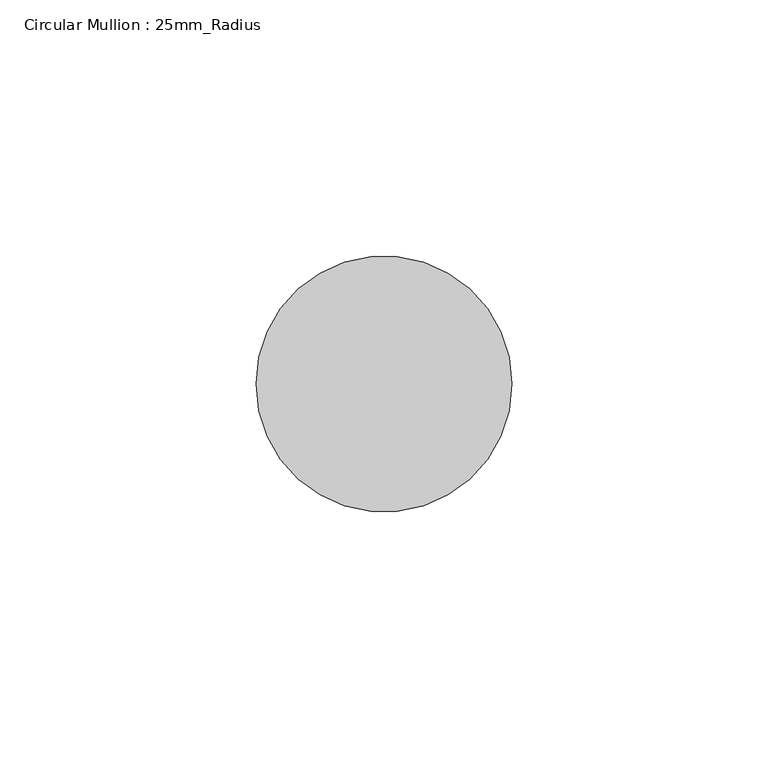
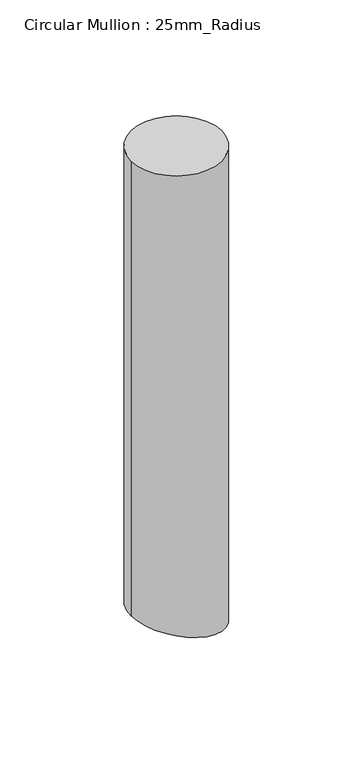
"""IFC4 building model written with IfcOpenShell, lengths in millimetres: member geometry, Circular Mullion : 25mm_Radius."""

from ifc_helpers import new_model, si_unit, frame, origin, place, context, project, spatial, circle_curve, ellipse_curve, source, transform, mapped, element, save
from ifc_brep_helpers import plane_surface, cylinder_surface, advanced_brep


def circular_mullion_25mm_radius_465921a7(model_context):
    return source(origin(), model_context, "Body", "AdvancedBrep", [
        advanced_brep(
        [(0.0, 0.0, 0.0), (-50.0, 0.0, 0.0), (0.0, 0.0, -276.9993245), (-50.0, 0.0, -264.7588515)],
        [
            (0, 1, circle_curve(frame((-25.0, 0.0, 0.0), z_axis=(0.0, 0.0, 1.0), x_axis=(1.0, 0.0, 0.0)), 25.0)),
            (1, 0, circle_curve(frame((-25.0, 0.0, 0.0), z_axis=(0.0, 0.0, 1.0), x_axis=(1.0, 0.0, 0.0)), 25.0)),
            (0, 2),
            (2, 3, ellipse_curve(frame((-25.0, 0.0, -270.879088), z_axis=(0.23778763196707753, 0.0, 0.9713171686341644), x_axis=(-0.9713171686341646, 0.0, 0.2377876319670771)), 25.7382458, 25.0)),
            (3, 1),
            (3, 2, ellipse_curve(frame((-25.0, 0.0, -270.879088), z_axis=(0.23778763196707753, 0.0, 0.9713171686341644), x_axis=(-0.9713171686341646, 0.0, 0.2377876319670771)), 25.7382458, 25.0)),
        ],
        [
            plane_surface(frame((0.0, -50.0, 0.0), z_axis=(0.0, 0.0, 1.0), x_axis=(-1.0, 0.0, 0.0))),
            cylinder_surface(frame((-25.0, 0.0, 0.0), z_axis=(0.0, 0.0, 1.0), x_axis=(1.0, 0.0, 0.0)), 25.0),
            plane_surface(frame((0.0, -304.8, -276.9993245), z_axis=(-0.23778763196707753, 0.0, -0.9713171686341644), x_axis=(-0.9713171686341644, 0.0, 0.23778763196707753))),
        ],
        [
            (0, [[1, 2]]),
            (1, [[-1, 3, 4, 5]]),
            (1, [[-2, -5, 6, -3]]),
            (2, [[-6, -4]]),
        ],
    ),
    ])


if __name__ == "__main__":
    model = new_model("IFC4")
    model_context = context("Model", 3, world=origin())
    ifc_project = project(units=[si_unit("LENGTHUNIT", "METRE", prefix="MILLI")], contexts=[model_context])
    site = spatial("IfcSite", under=ifc_project)
    building = spatial("IfcBuilding", under=site)
    placement = place(None, origin())
    circular_mullion_25mm_radius_shape = circular_mullion_25mm_radius_465921a7(model_context)
    element("IfcMember", 1, ObjectType="Circular Mullion : 25mm_Radius", at=placement, inside=building, context=model_context, shape_type="MappedRepresentation", body=[
        mapped(circular_mullion_25mm_radius_shape, transform((0.0, 0.0, 0.0), x_axis=(1.0, 0.0, 0.0), y_axis=(0.0, 1.0, 0.0), z_axis=(0.0, 0.0, 1.0))),
    ])
    save(model, "model.ifc")
